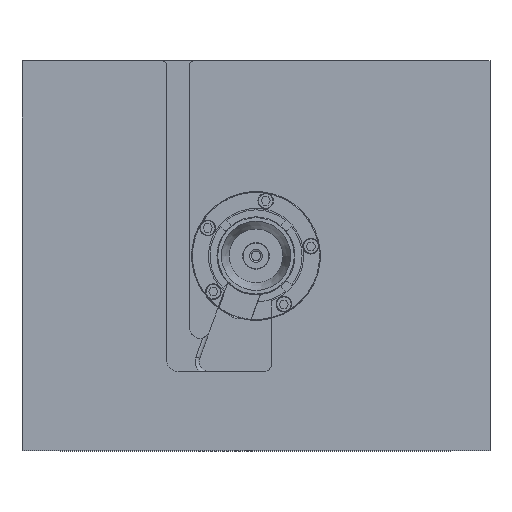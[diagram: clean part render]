
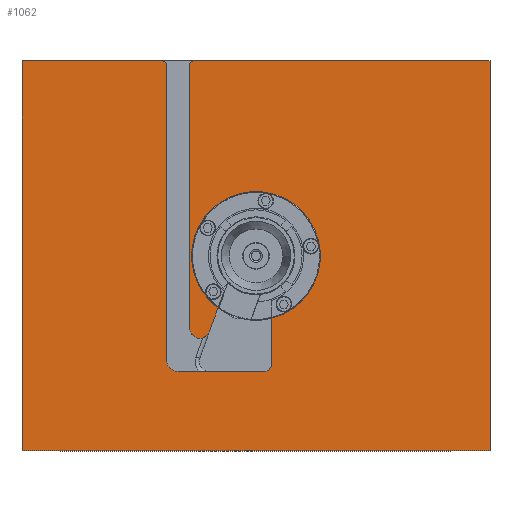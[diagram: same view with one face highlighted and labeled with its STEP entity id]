
A CAD part, top view. The second image highlights one B-rep face of the part: STEP entity #1062.
In plain terms, the highlighted planar face has unit normal (0, 0, 1).
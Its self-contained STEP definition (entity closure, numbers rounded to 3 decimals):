
#1062 = ADVANCED_FACE( '', ( #2618 ), #2619, .F. );
#2618 = FACE_OUTER_BOUND( '', #5169, .T. );
#2619 = PLANE( '', #5170 );
#5169 = EDGE_LOOP( '', ( #7916, #7917, #7918, #7919, #7920, #7921, #7922, #7923, #7924, #7925, #7926, #7927, #7928, #7929, #7930, #7931 ) );
#5170 = AXIS2_PLACEMENT_3D( '', #7932, #7933, #7934 );
#7916 = ORIENTED_EDGE( '', *, *, #12662, .F. );
#7917 = ORIENTED_EDGE( '', *, *, #12663, .T. );
#7918 = ORIENTED_EDGE( '', *, *, #12664, .T. );
#7919 = ORIENTED_EDGE( '', *, *, #12665, .T. );
#7920 = ORIENTED_EDGE( '', *, *, #12666, .T. );
#7921 = ORIENTED_EDGE( '', *, *, #12667, .F. );
#7922 = ORIENTED_EDGE( '', *, *, #12668, .T. );
#7923 = ORIENTED_EDGE( '', *, *, #12669, .F. );
#7924 = ORIENTED_EDGE( '', *, *, #12670, .F. );
#7925 = ORIENTED_EDGE( '', *, *, #12671, .T. );
#7926 = ORIENTED_EDGE( '', *, *, #12672, .F. );
#7927 = ORIENTED_EDGE( '', *, *, #12673, .T. );
#7928 = ORIENTED_EDGE( '', *, *, #12674, .F. );
#7929 = ORIENTED_EDGE( '', *, *, #12675, .F. );
#7930 = ORIENTED_EDGE( '', *, *, #12676, .F. );
#7931 = ORIENTED_EDGE( '', *, *, #12677, .F. );
#7932 = CARTESIAN_POINT( '', ( 300., -250., 0. ) );
#7933 = DIRECTION( '', ( 0., 0., -1. ) );
#7934 = DIRECTION( '', ( 0., -1., 0. ) );
#12662 = EDGE_CURVE( '', #14668, #14669, #14670, .T. );
#12663 = EDGE_CURVE( '', #14668, #14671, #14672, .F. );
#12664 = EDGE_CURVE( '', #14671, #14673, #14674, .T. );
#12665 = EDGE_CURVE( '', #14673, #14675, #14676, .F. );
#12666 = EDGE_CURVE( '', #14675, #14677, #14678, .F. );
#12667 = EDGE_CURVE( '', #14679, #14677, #14680, .F. );
#12668 = EDGE_CURVE( '', #14679, #14681, #14682, .F. );
#12669 = EDGE_CURVE( '', #14683, #14681, #14684, .F. );
#12670 = EDGE_CURVE( '', #14685, #14683, #14686, .T. );
#12671 = EDGE_CURVE( '', #14685, #14687, #14688, .T. );
#12672 = EDGE_CURVE( '', #14689, #14687, #14690, .F. );
#12673 = EDGE_CURVE( '', #14689, #14691, #14692, .F. );
#12674 = EDGE_CURVE( '', #14693, #14691, #14694, .T. );
#12675 = EDGE_CURVE( '', #14695, #14693, #14696, .T. );
#12676 = EDGE_CURVE( '', #14697, #14695, #14698, .T. );
#12677 = EDGE_CURVE( '', #14669, #14697, #14699, .T. );
#14668 = VERTEX_POINT( '', #17496 );
#14669 = VERTEX_POINT( '', #17497 );
#14670 = LINE( '', #17498, #17499 );
#14671 = VERTEX_POINT( '', #17500 );
#14672 = CIRCLE( '', #17501, 5. );
#14673 = VERTEX_POINT( '', #17502 );
#14674 = LINE( '', #17503, #17504 );
#14675 = VERTEX_POINT( '', #17505 );
#14676 = CIRCLE( '', #17506, 13. );
#14677 = VERTEX_POINT( '', #17507 );
#14678 = LINE( '', #17508, #17509 );
#14679 = VERTEX_POINT( '', #17510 );
#14680 = CIRCLE( '', #17511, 82.5 );
#14681 = VERTEX_POINT( '', #17512 );
#14682 = LINE( '', #17513, #17514 );
#14683 = VERTEX_POINT( '', #17515 );
#14684 = CIRCLE( '', #17516, 8.853 );
#14685 = VERTEX_POINT( '', #17517 );
#14686 = LINE( '', #17518, #17519 );
#14687 = VERTEX_POINT( '', #17520 );
#14688 = CIRCLE( '', #17521, 15. );
#14689 = VERTEX_POINT( '', #17522 );
#14690 = LINE( '', #17523, #17524 );
#14691 = VERTEX_POINT( '', #17525 );
#14692 = CIRCLE( '', #17526, 5. );
#14693 = VERTEX_POINT( '', #17527 );
#14694 = LINE( '', #17528, #17529 );
#14695 = VERTEX_POINT( '', #17530 );
#14696 = LINE( '', #17531, #17532 );
#14697 = VERTEX_POINT( '', #17533 );
#14698 = LINE( '', #17534, #17535 );
#14699 = LINE( '', #17536, #17537 );
#17496 = CARTESIAN_POINT( '', ( -80., 250., 0. ) );
#17497 = CARTESIAN_POINT( '', ( 300., 250., 0. ) );
#17498 = CARTESIAN_POINT( '', ( -300., 250., 0. ) );
#17499 = VECTOR( '', #20932, 1000. );
#17500 = CARTESIAN_POINT( '', ( -85., 245., 0. ) );
#17501 = AXIS2_PLACEMENT_3D( '', #20933, #20934, #20935 );
#17502 = CARTESIAN_POINT( '', ( -85., -92.561, 0. ) );
#17503 = CARTESIAN_POINT( '', ( -85., -250., 0. ) );
#17504 = VECTOR( '', #20936, 1000. );
#17505 = CARTESIAN_POINT( '', ( -59.784, -97.008, 0. ) );
#17506 = AXIS2_PLACEMENT_3D( '', #20937, #20938, #20939 );
#17507 = CARTESIAN_POINT( '', ( -48.711, -66.585, 0. ) );
#17508 = CARTESIAN_POINT( '', ( -66.868, -116.471, 0. ) );
#17509 = VECTOR( '', #20940, 1000. );
#17510 = CARTESIAN_POINT( '', ( 20., -80.039, 0. ) );
#17511 = AXIS2_PLACEMENT_3D( '', #20941, #20942, #20943 );
#17512 = CARTESIAN_POINT( '', ( 20., -139.147, 0. ) );
#17513 = CARTESIAN_POINT( '', ( 20., -250., 0. ) );
#17514 = VECTOR( '', #20944, 1000. );
#17515 = CARTESIAN_POINT( '', ( 11.147, -148., 0. ) );
#17516 = AXIS2_PLACEMENT_3D( '', #20945, #20946, #20947 );
#17517 = CARTESIAN_POINT( '', ( -100., -148., 0. ) );
#17518 = CARTESIAN_POINT( '', ( -60.404, -148., 0. ) );
#17519 = VECTOR( '', #20948, 1000. );
#17520 = CARTESIAN_POINT( '', ( -115., -133., 0. ) );
#17521 = AXIS2_PLACEMENT_3D( '', #20949, #20950, #20951 );
#17522 = CARTESIAN_POINT( '', ( -115., 245., 0. ) );
#17523 = CARTESIAN_POINT( '', ( -115., 260., 0. ) );
#17524 = VECTOR( '', #20952, 1000. );
#17525 = CARTESIAN_POINT( '', ( -120., 250., 0. ) );
#17526 = AXIS2_PLACEMENT_3D( '', #20953, #20954, #20955 );
#17527 = CARTESIAN_POINT( '', ( -300., 250., 0. ) );
#17528 = CARTESIAN_POINT( '', ( -300., 250., 0. ) );
#17529 = VECTOR( '', #20956, 1000. );
#17530 = CARTESIAN_POINT( '', ( -300., -250., 0. ) );
#17531 = CARTESIAN_POINT( '', ( -300., -250., 0. ) );
#17532 = VECTOR( '', #20957, 1000. );
#17533 = CARTESIAN_POINT( '', ( 300., -250., 0. ) );
#17534 = CARTESIAN_POINT( '', ( 300., -250., 0. ) );
#17535 = VECTOR( '', #20958, 1000. );
#17536 = CARTESIAN_POINT( '', ( 300., 250., 0. ) );
#17537 = VECTOR( '', #20959, 1000. );
#20932 = DIRECTION( '', ( 1., 0., 0. ) );
#20933 = CARTESIAN_POINT( '', ( -80., 245., 0. ) );
#20934 = DIRECTION( '', ( 0., 0., -1. ) );
#20935 = DIRECTION( '', ( -1., 0., 0. ) );
#20936 = DIRECTION( '', ( 0., -1., 0. ) );
#20937 = CARTESIAN_POINT( '', ( -72., -92.561, 0. ) );
#20938 = DIRECTION( '', ( 0., 0., -1. ) );
#20939 = DIRECTION( '', ( -1., 0., 0. ) );
#20940 = DIRECTION( '', ( -0.342, -0.94, 0. ) );
#20941 = CARTESIAN_POINT( '', ( 0., 0., 0. ) );
#20942 = DIRECTION( '', ( 0., 0., -1. ) );
#20943 = DIRECTION( '', ( -1., 0., 0. ) );
#20944 = DIRECTION( '', ( 0., 1., 0. ) );
#20945 = CARTESIAN_POINT( '', ( 11.147, -139.147, 0. ) );
#20946 = DIRECTION( '', ( 0., 0., -1. ) );
#20947 = DIRECTION( '', ( -1., 0., 0. ) );
#20948 = DIRECTION( '', ( 1., 0., 0. ) );
#20949 = CARTESIAN_POINT( '', ( -100., -133., 0. ) );
#20950 = DIRECTION( '', ( 0., 0., -1. ) );
#20951 = DIRECTION( '', ( -1., 0., 0. ) );
#20952 = DIRECTION( '', ( 0., 1., 0. ) );
#20953 = CARTESIAN_POINT( '', ( -120., 245., 0. ) );
#20954 = DIRECTION( '', ( 0., 0., -1. ) );
#20955 = DIRECTION( '', ( -1., 0., 0. ) );
#20956 = DIRECTION( '', ( 1., 0., 0. ) );
#20957 = DIRECTION( '', ( 0., 1., 0. ) );
#20958 = DIRECTION( '', ( -1., 0., 0. ) );
#20959 = DIRECTION( '', ( 0., -1., 0. ) );
